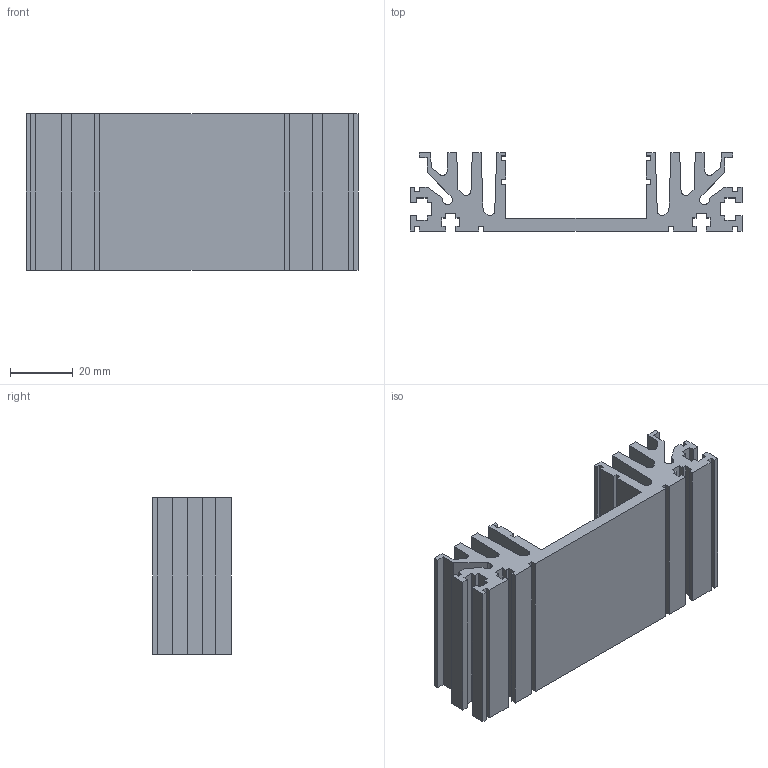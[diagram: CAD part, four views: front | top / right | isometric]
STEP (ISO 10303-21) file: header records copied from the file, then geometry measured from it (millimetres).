
FILE_DESCRIPTION (( 'STEP AP203' ), '1' );
FILE_NAME ('PR 129-50.step', '2002-10-20T23:21:46', ( 'Wolfgang Müller' ), ( 'DPS' ), 'SwSTEP 2.0', 'SolidWorks 2002264', '' );
FILE_SCHEMA (( 'CONFIG_CONTROL_DESIGN' ));
Length unit declared in the file: millimetre
Products named in the file (1): PR 129-50
Bounding box: 106 x 25 x 50 mm (x, y, z)
Volume: 51112 mm3; surface area: 32063.8 mm2
Topology: 1 solids, 1 shells, 146 faces, 432 edges, 288 vertices
Faces by surface type: plane 134, cylinder 12
Entity records: 4877 total; most frequent: CARTESIAN_POINT 867, ORIENTED_EDGE 864, DIRECTION 750, EDGE_CURVE 432, LINE 408, VECTOR 408, VERTEX_POINT 288, AXIS2_PLACEMENT_3D 171
